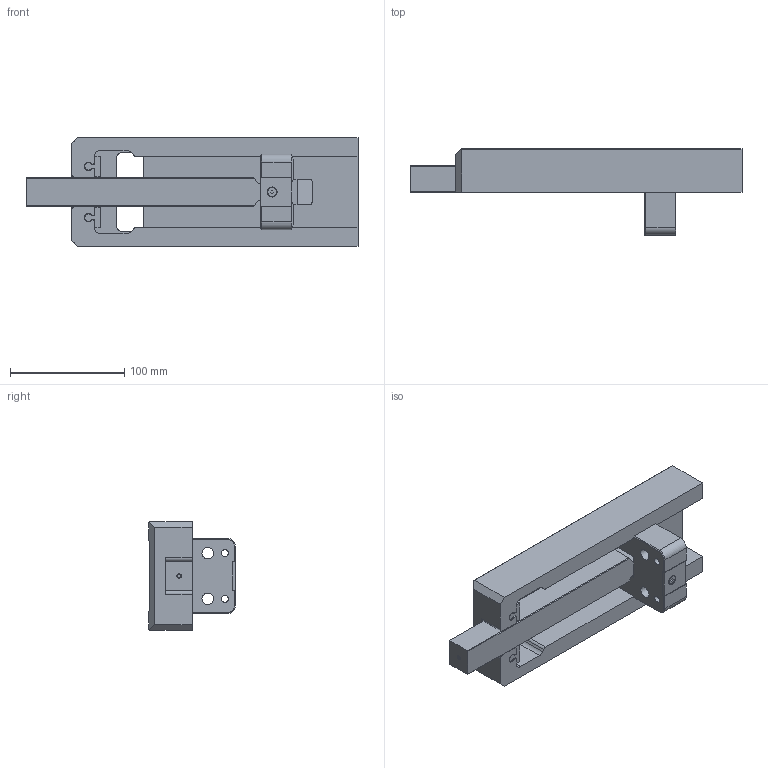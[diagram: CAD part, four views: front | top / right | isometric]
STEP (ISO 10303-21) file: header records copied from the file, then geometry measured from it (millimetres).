
FILE_DESCRIPTION (( 'STEP AP203' ), '1' );
FILE_NAME ('SA-140-250-00.step', '2015-06-16T06:27:06', ( '' ), ( '' ), 'SwSTEP 2.0', 'SolidWorks 2015', '' );
FILE_SCHEMA (( 'CONFIG_CONTROL_DESIGN' ));
Length unit declared in the file: millimetre
Products named in the file (2): SA-140-250-00
Bounding box: 290 x 75.6 x 95 mm (x, y, z)
Surface area: 124369.4 mm2 (no closed solid volume)
Topology: 0 solids, 9 shells, 136 faces, 487 edges, 350 vertices
Faces by surface type: plane 95, cylinder 33, cone 8
Full cylindrical faces by diameter (mm): 1.3 x2, 2.5 x1, 6 x2, 6.5 x2, 7.64 x1, 10.2 x2
Entity records: 5252 total; most frequent: CARTESIAN_POINT 993, DIRECTION 833, ORIENTED_EDGE 778, EDGE_CURVE 471, LINE 361, VECTOR 361, VERTEX_POINT 348, AXIS2_PLACEMENT_3D 236
